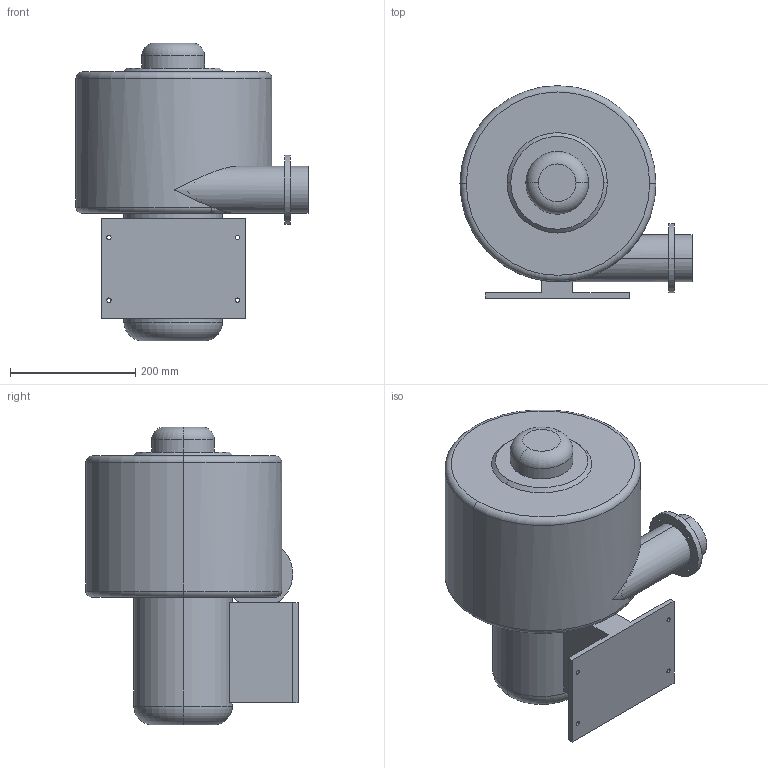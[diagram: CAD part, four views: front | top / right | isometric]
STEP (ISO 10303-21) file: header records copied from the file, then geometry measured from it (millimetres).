
FILE_DESCRIPTION (( 'STEP AP203' ), '1' );
FILE_NAME ('400-75-3.STEP', '2019-05-09T03:29:19', ( 'User' ), ( 'www.dadighost.com' ), 'SwSTEP 2.0', 'SolidWorks 2014', '' );
FILE_SCHEMA (( 'CONFIG_CONTROL_DESIGN' ));
Length unit declared in the file: millimetre
Products named in the file (1): 400-75-3
Bounding box: 370 x 338.5 x 475 mm (x, y, z)
Volume: 22695497.8 mm3; surface area: 645770.7 mm2
Topology: 1 solids, 1 shells, 61 faces, 146 edges, 92 vertices
Faces by surface type: cylinder 31, plane 17, torus 9, cone 2, bspline 2
Entity records: 2309 total; most frequent: CARTESIAN_POINT 738, DIRECTION 338, ORIENTED_EDGE 288, EDGE_CURVE 144, AXIS2_PLACEMENT_3D 142, VERTEX_POINT 92, EDGE_LOOP 84, CIRCLE 82
